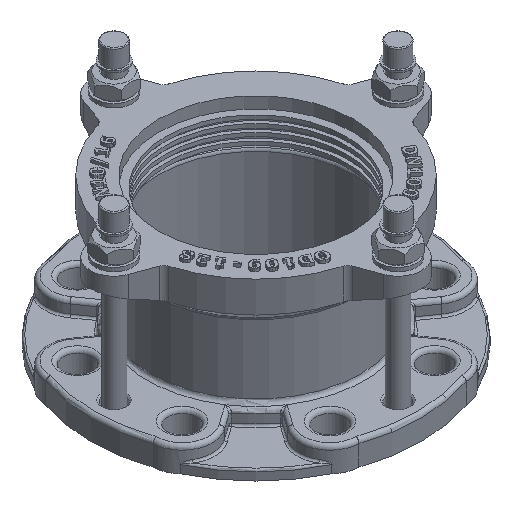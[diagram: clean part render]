
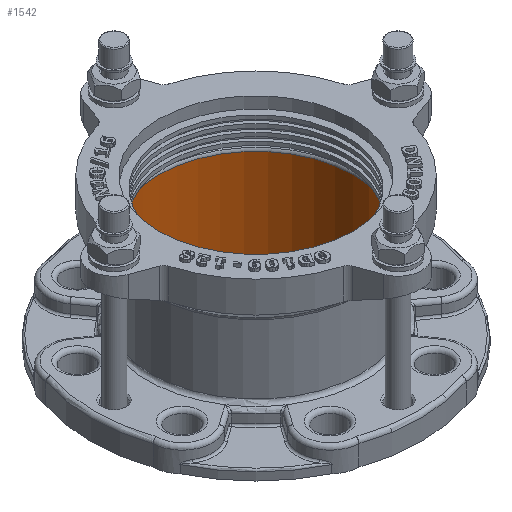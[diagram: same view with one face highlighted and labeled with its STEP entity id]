
A CAD part, isometric view. The second image highlights one B-rep face of the part: STEP entity #1542.
In plain terms, the highlighted cylindrical face has radius 64 mm (diameter 128 mm), a full revolution.
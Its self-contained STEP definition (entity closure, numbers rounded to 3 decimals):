
#1542=ADVANCED_FACE('',(#10629,#10631),#10633,.F.);
#10629=FACE_OUTER_BOUND('',#10630,.T.);
#10630=EDGE_LOOP('',(#16087));
#10631=FACE_OUTER_BOUND('',#10632,.T.);
#10632=EDGE_LOOP('',(#16088));
#10633=CYLINDRICAL_SURFACE('',#10634,64.);
#10634=AXIS2_PLACEMENT_3D('',#10635,#10636,#10637);
#10635=CARTESIAN_POINT('',(0.,0.,3.));
#10636=DIRECTION('',(0.,0.,1.));
#10637=DIRECTION('',(-1.,0.,0.));
#16087=ORIENTED_EDGE('',*,*,#20762,.F.);
#16088=ORIENTED_EDGE('',*,*,#20763,.T.);
#20762=EDGE_CURVE('',#23399,#23399,#23400,.T.);
#20763=EDGE_CURVE('',#23401,#23401,#23402,.F.);
#23399=VERTEX_POINT('',#32528);
#23400=CIRCLE('',#32529,64.);
#23401=VERTEX_POINT('',#32533);
#23402=CIRCLE('',#32534,64.);
#32528=CARTESIAN_POINT('',(0.,64.,68.75));
#32529=AXIS2_PLACEMENT_3D('',#32530,#32531,#32532);
#32530=CARTESIAN_POINT('',(0.,0.,68.75));
#32531=DIRECTION('',(0.,0.,-1.));
#32532=DIRECTION('',(0.,1.,0.));
#32533=CARTESIAN_POINT('',(0.,64.,5.5));
#32534=AXIS2_PLACEMENT_3D('',#32535,#32536,#32537);
#32535=CARTESIAN_POINT('',(0.,0.,5.5));
#32536=DIRECTION('',(0.,0.,1.));
#32537=DIRECTION('',(0.,1.,0.));
